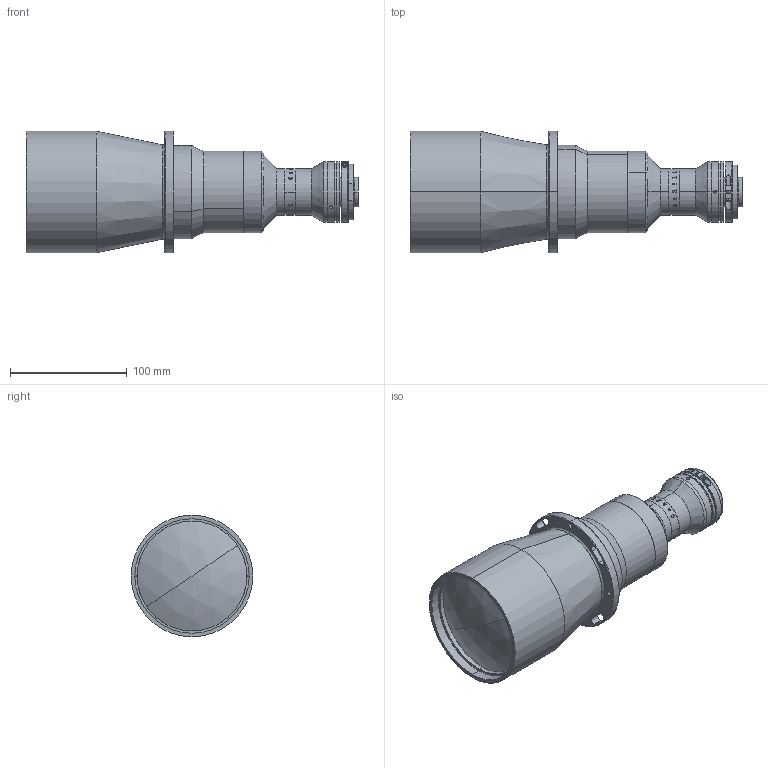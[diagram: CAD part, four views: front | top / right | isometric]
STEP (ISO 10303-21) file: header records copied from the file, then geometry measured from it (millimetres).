
FILE_DESCRIPTION (( 'STEP AP203' ), '1' );
FILE_NAME ('XF-PTL08019-C.STEP', '2020-05-09T02:11:20', ( 'puyufan' ), ( '' ), 'SwSTEP 2.0', 'SolidWorks 2014', '' );
FILE_SCHEMA (( 'CONFIG_CONTROL_DESIGN' ));
Length unit declared in the file: millimetre
Products named in the file (1): XF-PTL08019-C
Bounding box: 284.2 x 104 x 104 mm (x, y, z)
Surface area: 108273.9 mm2 (no closed solid volume)
Topology: 0 solids, 32 shells, 195 faces, 1015 edges, 856 vertices
Faces by surface type: cylinder 110, plane 49, torus 14, cone 14, sphere 4, bspline 4
Entity records: 16673 total; most frequent: CARTESIAN_POINT 8999, DIRECTION 1499, ORIENTED_EDGE 1370, EDGE_CURVE 1015, VERTEX_POINT 856, AXIS2_PLACEMENT_3D 594, CIRCLE 402, VECTOR 311
